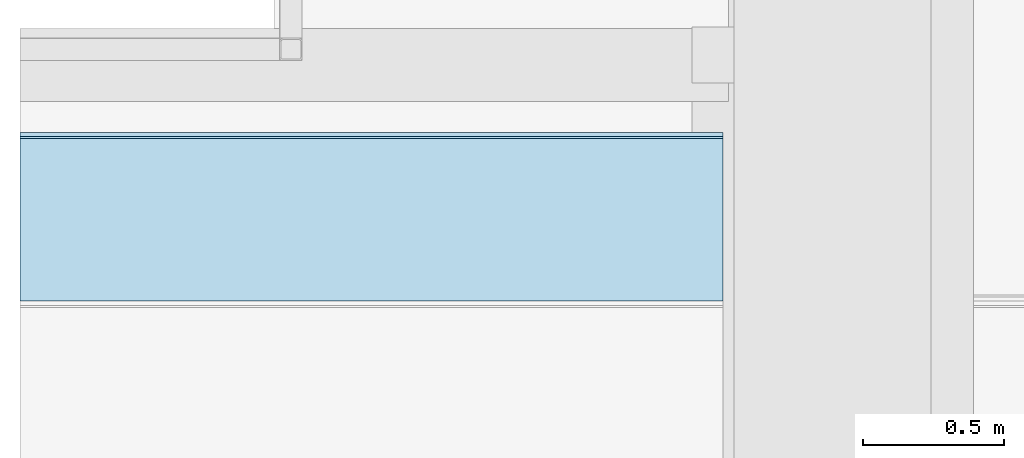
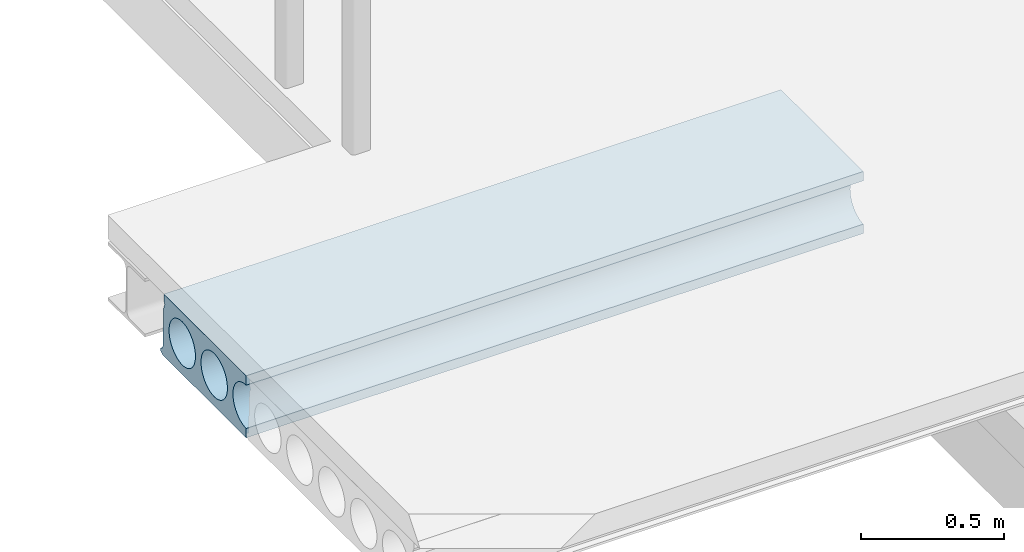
# One storey, part 31 of 34: 1 slab.
"""IFC2X3 building model written with IfcOpenShell, lengths in millimetres."""

from ifc_helpers import new_model, entity, si_unit, converted_unit, derived_unit, direction, frame, origin_with_axes, place, context, subcontext, project, spatial, faceted_brep, type_object, element, save


model = new_model("IFC2X3")

# Units and contexts
model_context = context("Model", 3, precision=0.01, world=frame((0.0, 4.29681676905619e-09, 0.0)), true_north=direction((4.01073788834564e-13, 1.0)))
plan_context = context("Plan", 3, precision=0.01, world=frame((0.0, 4.29681676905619e-09, 0.0)), true_north=direction((4.01073788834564e-13, 1.0)))
body_context = subcontext(model_context, "Body", "Model", "MODEL_VIEW")
ifc_project = project(units=[converted_unit("PLANEANGLEUNIT", "DEGREE", entity("IfcPositiveLengthMeasure", 0.0174532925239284), si_unit("PLANEANGLEUNIT", "RADIAN"), dimensions=[0, 0, 0, 0, 0, 0, 0]), si_unit("AREAUNIT", "SQUARE_METRE"), si_unit("LENGTHUNIT", "METRE", prefix="MILLI"), si_unit("MASSUNIT", "GRAM", prefix="KILO"), si_unit("POWERUNIT", "WATT"), si_unit("PRESSUREUNIT", "PASCAL"), si_unit("FORCEUNIT", "NEWTON", prefix="KILO"), si_unit("ELECTRICVOLTAGEUNIT", "VOLT"), si_unit("ELECTRICCURRENTUNIT", "AMPERE"), si_unit("THERMODYNAMICTEMPERATUREUNIT", "DEGREE_CELSIUS"), si_unit("TIMEUNIT", "SECOND"), si_unit("VOLUMEUNIT", "CUBIC_METRE"), derived_unit("LINEARVELOCITYUNIT", [(si_unit("LENGTHUNIT", "METRE"), 1), (si_unit("TIMEUNIT", "SECOND"), -1)]), derived_unit("VOLUMETRICFLOWRATEUNIT", [(si_unit("VOLUMEUNIT", "CUBIC_METRE"), 1), (si_unit("TIMEUNIT", "SECOND"), -1)]), derived_unit("THERMALTRANSMITTANCEUNIT", [(si_unit("POWERUNIT", "WATT"), 1), (si_unit("THERMODYNAMICTEMPERATUREUNIT", "KELVIN"), -1), (si_unit("AREAUNIT", "SQUARE_METRE"), -1)]), derived_unit("SOUNDPRESSUREUNIT", [(si_unit("PRESSUREUNIT", "PASCAL"), 1)])], contexts=[model_context, plan_context])

# Site, building, storey
site_placement = place(None, frame((0.0, -4.29681676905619e-09, 0.0), z_axis=(0.0, 0.0, 1.0), x_axis=(1.0, 0.0, 0.0)))
site = spatial("IfcSite", under=ifc_project, at=site_placement, Name="Gardermoen", CompositionType="ELEMENT")
building_placement = place(site_placement, frame((0.0, 4.29681676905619e-09, 0.0), z_axis=(0.0, 0.0, 1.0), x_axis=(1.0, 0.0, 0.0)))
building = spatial("IfcBuilding", under=site, at=building_placement, Name="TH", CompositionType="ELEMENT")
storey_placement = place(building_placement, origin_with_axes())
storey = spatial("IfcBuildingStorey", under=building, at=storey_placement, Name="F", CompositionType="ELEMENT", Elevation=0.0)

# Slab
slab_type = type_object("IfcSlabType", Name="HD265", PredefinedType="NOTDEFINED")
slab_placement = place(storey_placement, frame((889389.982554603, 477499.97987603, 209897.5), z_axis=(0.0, 0.0, 1.0), x_axis=(1.0, 0.0, 0.0)))
element("IfcSlab", 1, at=slab_placement, inside=storey, type_object=slab_type, Name="HULLDEKKE", ObjectType="HD265", PredefinedType="FLOOR", context=body_context, shape_type="Brep", body=[
    faceted_brep([(5721.92361396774, 539.238420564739, 15.2249996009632), (5721.92361396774, 537.669524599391, 22.7074075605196), (8220.0, 537.669524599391, 22.7074075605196), (8220.0, 539.238420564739, 15.2249996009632), (5721.92361396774, 535.488094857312, 30.0347009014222), (8220.0, 535.488094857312, 30.0347009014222), (5721.92361396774, 532.709032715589, 37.1568267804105), (8220.0, 532.709032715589, 37.1568267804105), (5721.92361396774, 529.351321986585, 44.0251338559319), (8220.0, 529.351321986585, 44.0251338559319), (5721.92361396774, 525.437899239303, 50.5927046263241), (8220.0, 525.437899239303, 50.5927046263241), (5721.92361396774, 520.995497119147, 56.8146759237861), (8220.0, 520.995497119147, 56.8146759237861), (5721.92361396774, 516.05446173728, 62.6485453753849), (8220.0, 516.05446173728, 62.6485453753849), (5721.92361396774, 510.648545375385, 68.0544617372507), (8220.0, 510.648545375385, 68.0544617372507), (5721.92361396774, 504.814675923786, 72.9954971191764), (8220.0, 504.814675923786, 72.9954971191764), (5721.92361396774, 498.592704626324, 77.437899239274), (8220.0, 498.592704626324, 77.437899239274), (5721.92361396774, 492.025133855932, 81.3513219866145), (8220.0, 492.025133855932, 81.3513219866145), (5721.92361396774, 485.15682678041, 84.7090327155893), (8220.0, 485.15682678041, 84.7090327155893), (5721.92361396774, 478.034700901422, 87.4880948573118), (8220.0, 478.034700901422, 87.4880948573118), (5721.92361396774, 470.707407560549, 89.6695245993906), (8220.0, 470.707407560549, 89.6695245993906), (5721.92361396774, 463.224999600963, 91.2384205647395), (8220.0, 463.224999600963, 91.2384205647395), (5721.92361396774, 455.638589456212, 92.1840656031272), (8220.0, 455.638589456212, 92.1840656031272), (5721.92361396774, 448.0, 92.5), (8220.0, 448.0, 92.5), (5721.92361396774, 440.361410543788, 92.1840656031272), (8220.0, 440.361410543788, 92.1840656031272), (5721.92361396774, 432.775000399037, 91.2384205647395), (8220.0, 432.775000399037, 91.2384205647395), (5721.92361396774, 425.292592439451, 89.6695245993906), (8220.0, 425.292592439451, 89.6695245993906), (5721.92361396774, 417.965299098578, 87.4880948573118), (8220.0, 417.965299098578, 87.4880948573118), (5721.92361396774, 410.84317321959, 84.7090327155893), (8220.0, 410.84317321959, 84.7090327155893), (5721.92361396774, 403.974866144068, 81.3513219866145), (8220.0, 403.974866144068, 81.3513219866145), (5721.92361396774, 397.407295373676, 77.437899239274), (8220.0, 397.407295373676, 77.437899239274), (5721.92361396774, 391.185324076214, 72.9954971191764), (8220.0, 391.185324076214, 72.9954971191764), (5721.92361396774, 385.351454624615, 68.0544617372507), (8220.0, 385.351454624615, 68.0544617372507), (5721.92361396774, 379.94553826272, 62.6485453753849), (8220.0, 379.94553826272, 62.6485453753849), (5721.92361396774, 375.004502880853, 56.8146759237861), (8220.0, 375.004502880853, 56.8146759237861), (5721.92361396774, 370.562100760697, 50.5927046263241), (8220.0, 370.562100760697, 50.5927046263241), (5721.92361396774, 366.648678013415, 44.0251338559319), (8220.0, 366.648678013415, 44.0251338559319), (5721.92361396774, 363.290967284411, 37.1568267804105), (8220.0, 363.290967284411, 37.1568267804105), (5721.92361396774, 360.511905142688, 30.0347009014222), (8220.0, 360.511905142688, 30.0347009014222), (5721.92361396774, 358.330475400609, 22.7074075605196), (8220.0, 358.330475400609, 22.7074075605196), (5721.92361396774, 356.761579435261, 15.2249996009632), (8220.0, 356.761579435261, 15.2249996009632), (5721.92361396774, 355.815934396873, 7.63858945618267), (8220.0, 355.815934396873, 7.63858945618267), (5721.92361396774, 355.5, 1.65308828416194e-20), (8220.0, 355.5, 0.0), (5721.92361396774, 355.815934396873, -7.63858945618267), (8220.0, 355.815934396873, -7.63858945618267), (5721.92361396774, 356.761579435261, -15.2249996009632), (8220.0, 356.761579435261, -15.2249996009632), (5721.92361396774, 358.330475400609, -22.7074075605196), (8220.0, 358.330475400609, -22.7074075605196), (5721.92361396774, 360.511905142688, -30.0347009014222), (8220.0, 360.511905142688, -30.0347009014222), (5721.92361396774, 363.290967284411, -37.1568267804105), (8220.0, 363.290967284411, -37.1568267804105), (5721.92361396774, 366.648678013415, -44.0251338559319), (8220.0, 366.648678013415, -44.0251338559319), (5721.92361396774, 370.562100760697, -50.5927046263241), (8220.0, 370.562100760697, -50.5927046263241), (5721.92361396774, 375.004502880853, -56.8146759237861), (8220.0, 375.004502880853, -56.8146759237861), (5721.92361396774, 379.94553826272, -62.6485453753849), (8220.0, 379.94553826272, -62.6485453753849), (5721.92361396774, 385.351454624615, -68.0544617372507), (8220.0, 385.351454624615, -68.0544617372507), (5721.92361396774, 391.185324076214, -72.9954971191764), (8220.0, 391.185324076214, -72.9954971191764), (5721.92361396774, 397.407295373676, -77.437899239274), (8220.0, 397.407295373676, -77.437899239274), (5721.92361396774, 403.974866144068, -81.3513219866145), (8220.0, 403.974866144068, -81.3513219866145), (5721.92361396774, 410.84317321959, -84.7090327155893), (8220.0, 410.84317321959, -84.7090327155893), (5721.92361396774, 417.965299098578, -87.4880948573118), (8220.0, 417.965299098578, -87.4880948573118), (5721.92361396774, 425.292592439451, -89.6695245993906), (8220.0, 425.292592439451, -89.6695245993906), (5721.92361396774, 432.775000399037, -91.2384205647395), (8220.0, 432.775000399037, -91.2384205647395), (5721.92361396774, 440.361410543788, -92.1840656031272), (8220.0, 440.361410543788, -92.1840656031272), (5721.92361396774, 448.0, -92.5), (8220.0, 448.0, -92.5), (5721.92361396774, 455.638589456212, -92.1840656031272), (8220.0, 455.638589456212, -92.1840656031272), (5721.92361396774, 463.224999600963, -91.2384205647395), (8220.0, 463.224999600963, -91.2384205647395), (5721.92361396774, 470.707407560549, -89.6695245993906), (8220.0, 470.707407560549, -89.6695245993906), (5721.92361396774, 478.034700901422, -87.4880948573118), (8220.0, 478.034700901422, -87.4880948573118), (5721.92361396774, 485.15682678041, -84.7090327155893), (8220.0, 485.15682678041, -84.7090327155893), (5721.92361396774, 492.025133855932, -81.3513219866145), (8220.0, 492.025133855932, -81.3513219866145), (5721.92361396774, 498.592704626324, -77.437899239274), (8220.0, 498.592704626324, -77.437899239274), (5721.92361396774, 504.814675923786, -72.9954971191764), (8220.0, 504.814675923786, -72.9954971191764), (5721.92361396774, 510.648545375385, -68.0544617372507), (8220.0, 510.648545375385, -68.0544617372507), (5721.92361396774, 516.05446173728, -62.6485453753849), (8220.0, 516.05446173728, -62.6485453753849), (5721.92361396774, 520.995497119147, -56.8146759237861), (8220.0, 520.995497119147, -56.8146759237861), (5721.92361396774, 525.437899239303, -50.5927046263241), (8220.0, 525.437899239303, -50.5927046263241), (5721.92361396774, 529.351321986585, -44.0251338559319), (8220.0, 529.351321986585, -44.0251338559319), (5721.92361396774, 532.709032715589, -37.1568267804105), (8220.0, 532.709032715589, -37.1568267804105), (5721.92361396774, 535.488094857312, -30.0347009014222), (8220.0, 535.488094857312, -30.0347009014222), (5721.92361396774, 537.669524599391, -22.7074075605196), (8220.0, 537.669524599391, -22.7074075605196), (5721.92361396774, 539.238420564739, -15.2249996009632), (8220.0, 539.238420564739, -15.2249996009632), (5721.92361396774, 540.184065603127, -7.63858945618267), (8220.0, 540.184065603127, -7.63858945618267), (5721.92361396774, 540.5, 1.65308828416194e-20), (8220.0, 540.5, 0.0), (5721.92361396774, 540.184065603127, 7.63858945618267), (8220.0, 540.184065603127, 7.63858945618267), (5721.92361396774, 315.238420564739, 15.2249996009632), (5721.92361396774, 313.669524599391, 22.7074075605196), (8220.0, 313.669524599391, 22.7074075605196), (8220.0, 315.238420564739, 15.2249996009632), (5721.92361396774, 311.488094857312, 30.0347009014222), (8220.0, 311.488094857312, 30.0347009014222), (5721.92361396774, 308.709032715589, 37.1568267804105), (8220.0, 308.709032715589, 37.1568267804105), (5721.92361396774, 305.351321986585, 44.0251338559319), (8220.0, 305.351321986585, 44.0251338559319), (5721.92361396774, 301.437899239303, 50.5927046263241), (8220.0, 301.437899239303, 50.5927046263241), (5721.92361396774, 296.995497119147, 56.8146759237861), (8220.0, 296.995497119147, 56.8146759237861), (5721.92361396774, 292.05446173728, 62.6485453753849), (8220.0, 292.05446173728, 62.6485453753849), (5721.92361396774, 286.648545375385, 68.0544617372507), (8220.0, 286.648545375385, 68.0544617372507), (5721.92361396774, 280.814675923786, 72.9954971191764), (8220.0, 280.814675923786, 72.9954971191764), (5721.92361396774, 274.592704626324, 77.437899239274), (8220.0, 274.592704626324, 77.437899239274), (5721.92361396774, 268.025133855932, 81.3513219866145), (8220.0, 268.025133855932, 81.3513219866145), (5721.92361396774, 261.15682678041, 84.7090327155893), (8220.0, 261.15682678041, 84.7090327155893), (5721.92361396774, 254.034700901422, 87.4880948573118), (8220.0, 254.034700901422, 87.4880948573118), (5721.92361396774, 246.707407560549, 89.6695245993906), (8220.0, 246.707407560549, 89.6695245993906), (5721.92361396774, 239.224999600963, 91.2384205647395), (8220.0, 239.224999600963, 91.2384205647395), (5721.92361396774, 231.638589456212, 92.1840656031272), (8220.0, 231.638589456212, 92.1840656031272), (5721.92361396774, 224.0, 92.5), (8220.0, 224.0, 92.5), (5721.92361396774, 216.361410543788, 92.1840656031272), (8220.0, 216.361410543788, 92.1840656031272), (5721.92361396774, 208.775000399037, 91.2384205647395), (8220.0, 208.775000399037, 91.2384205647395), (5721.92361396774, 201.292592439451, 89.6695245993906), (8220.0, 201.292592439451, 89.6695245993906), (5721.92361396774, 193.965299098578, 87.4880948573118), (8220.0, 193.965299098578, 87.4880948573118), (5721.92361396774, 186.84317321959, 84.7090327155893), (8220.0, 186.84317321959, 84.7090327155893), (5721.92361396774, 179.974866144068, 81.3513219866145), (8220.0, 179.974866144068, 81.3513219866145), (5721.92361396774, 173.407295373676, 77.437899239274), (8220.0, 173.407295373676, 77.437899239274), (5721.92361396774, 167.185324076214, 72.9954971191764), (8220.0, 167.185324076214, 72.9954971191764), (5721.92361396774, 161.351454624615, 68.0544617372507), (8220.0, 161.351454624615, 68.0544617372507), (5721.92361396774, 155.94553826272, 62.6485453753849), (8220.0, 155.94553826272, 62.6485453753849), (5721.92361396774, 151.004502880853, 56.8146759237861), (8220.0, 151.004502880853, 56.8146759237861), (5721.92361396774, 146.562100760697, 50.5927046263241), (8220.0, 146.562100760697, 50.5927046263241), (5721.92361396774, 142.648678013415, 44.0251338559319), (8220.0, 142.648678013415, 44.0251338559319), (5721.92361396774, 139.290967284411, 37.1568267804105), (8220.0, 139.290967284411, 37.1568267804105), (5721.92361396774, 136.511905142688, 30.0347009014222), (8220.0, 136.511905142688, 30.0347009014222), (5721.92361396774, 134.330475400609, 22.7074075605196), (8220.0, 134.330475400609, 22.7074075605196), (5721.92361396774, 132.761579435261, 15.2249996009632), (8220.0, 132.761579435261, 15.2249996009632), (5721.92361396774, 131.815934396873, 7.63858945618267), (8220.0, 131.815934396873, 7.63858945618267), (5721.92361396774, 131.5, 1.65308828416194e-20), (8220.0, 131.5, 0.0), (5721.92361396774, 131.815934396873, -7.63858945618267), (8220.0, 131.815934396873, -7.63858945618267), (5721.92361396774, 132.761579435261, -15.2249996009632), (8220.0, 132.761579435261, -15.2249996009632), (5721.92361396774, 134.330475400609, -22.7074075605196), (8220.0, 134.330475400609, -22.7074075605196), (5721.92361396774, 136.511905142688, -30.0347009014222), (8220.0, 136.511905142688, -30.0347009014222), (5721.92361396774, 139.290967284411, -37.1568267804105), (8220.0, 139.290967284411, -37.1568267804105), (5721.92361396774, 142.648678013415, -44.0251338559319), (8220.0, 142.648678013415, -44.0251338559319), (5721.92361396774, 146.562100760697, -50.5927046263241), (8220.0, 146.562100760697, -50.5927046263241), (5721.92361396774, 151.004502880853, -56.8146759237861), (8220.0, 151.004502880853, -56.8146759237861), (5721.92361396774, 155.94553826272, -62.6485453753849), (8220.0, 155.94553826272, -62.6485453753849), (5721.92361396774, 161.351454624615, -68.0544617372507), (8220.0, 161.351454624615, -68.0544617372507), (5721.92361396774, 167.185324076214, -72.9954971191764), (8220.0, 167.185324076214, -72.9954971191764), (5721.92361396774, 173.407295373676, -77.437899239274), (8220.0, 173.407295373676, -77.437899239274), (5721.92361396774, 179.974866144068, -81.3513219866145), (8220.0, 179.974866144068, -81.3513219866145), (5721.92361396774, 186.84317321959, -84.7090327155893), (8220.0, 186.84317321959, -84.7090327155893), (5721.92361396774, 193.965299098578, -87.4880948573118), (8220.0, 193.965299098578, -87.4880948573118), (5721.92361396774, 201.292592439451, -89.6695245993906), (8220.0, 201.292592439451, -89.6695245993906), (5721.92361396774, 208.775000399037, -91.2384205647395), (8220.0, 208.775000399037, -91.2384205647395), (5721.92361396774, 216.361410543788, -92.1840656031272), (8220.0, 216.361410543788, -92.1840656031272), (5721.92361396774, 224.0, -92.5), (8220.0, 224.0, -92.5), (5721.92361396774, 231.638589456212, -92.1840656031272), (8220.0, 231.638589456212, -92.1840656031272), (5721.92361396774, 239.224999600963, -91.2384205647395), (8220.0, 239.224999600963, -91.2384205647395), (5721.92361396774, 246.707407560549, -89.6695245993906), (8220.0, 246.707407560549, -89.6695245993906), (5721.92361396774, 254.034700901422, -87.4880948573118), (8220.0, 254.034700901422, -87.4880948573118), (5721.92361396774, 261.15682678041, -84.7090327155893), (8220.0, 261.15682678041, -84.7090327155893), (5721.92361396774, 268.025133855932, -81.3513219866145), (8220.0, 268.025133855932, -81.3513219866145), (5721.92361396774, 274.592704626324, -77.437899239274), (8220.0, 274.592704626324, -77.437899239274), (5721.92361396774, 280.814675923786, -72.9954971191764), (8220.0, 280.814675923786, -72.9954971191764), (5721.92361396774, 286.648545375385, -68.0544617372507), (8220.0, 286.648545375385, -68.0544617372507), (5721.92361396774, 292.05446173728, -62.6485453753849), (8220.0, 292.05446173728, -62.6485453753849), (5721.92361396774, 296.995497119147, -56.8146759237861), (8220.0, 296.995497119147, -56.8146759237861), (5721.92361396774, 301.437899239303, -50.5927046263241), (8220.0, 301.437899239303, -50.5927046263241), (5721.92361396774, 305.351321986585, -44.0251338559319), (8220.0, 305.351321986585, -44.0251338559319), (5721.92361396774, 308.709032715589, -37.1568267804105), (8220.0, 308.709032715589, -37.1568267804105), (5721.92361396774, 311.488094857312, -30.0347009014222), (8220.0, 311.488094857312, -30.0347009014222), (5721.92361396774, 313.669524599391, -22.7074075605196), (8220.0, 313.669524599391, -22.7074075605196), (5721.92361396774, 315.238420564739, -15.2249996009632), (8220.0, 315.238420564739, -15.2249996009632), (5721.92361396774, 316.184065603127, -7.63858945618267), (8220.0, 316.184065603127, -7.63858945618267), (5721.92361396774, 316.5, 1.65308828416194e-20), (8220.0, 316.5, 0.0), (5721.92361396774, 316.184065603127, 7.63858945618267), (8220.0, 316.184065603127, 7.63858945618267), (5721.92361396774, 91.2384205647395, 15.2249996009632), (5721.92361396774, 89.6695245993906, 22.7074075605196), (8220.0, 89.6695245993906, 22.7074075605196), (8220.0, 91.2384205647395, 15.2249996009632), (5721.92361396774, 87.4880948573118, 30.0347009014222), (8220.0, 87.4880948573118, 30.0347009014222), (5721.92361396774, 84.7090327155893, 37.1568267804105), (8220.0, 84.7090327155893, 37.1568267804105), (5721.92361396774, 81.3513219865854, 44.0251338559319), (8220.0, 81.3513219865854, 44.0251338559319), (5721.92361396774, 77.4378992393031, 50.5927046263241), (8220.0, 77.4378992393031, 50.5927046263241), (5721.92361396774, 72.9954971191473, 56.8146759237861), (8220.0, 72.9954971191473, 56.8146759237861), (5721.92361396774, 68.0544617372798, 62.6485453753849), (8220.0, 68.0544617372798, 62.6485453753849), (5721.92361396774, 62.6485453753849, 68.0544617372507), (8220.0, 62.6485453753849, 68.0544617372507), (5721.92361396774, 56.8146759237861, 72.9954971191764), (8220.0, 56.8146759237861, 72.9954971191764), (5721.92361396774, 50.5927046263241, 77.437899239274), (8220.0, 50.5927046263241, 77.437899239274), (5721.92361396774, 44.0251338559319, 81.3513219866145), (8220.0, 44.0251338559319, 81.3513219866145), (5721.92361396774, 37.1568267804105, 84.7090327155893), (8220.0, 37.1568267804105, 84.7090327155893), (5721.92361396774, 30.0347009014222, 87.4880948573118), (8220.0, 30.0347009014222, 87.4880948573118), (5721.92361396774, 22.7074075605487, 89.6695245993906), (8220.0, 22.7074075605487, 89.6695245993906), (5721.92361396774, 15.2249996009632, 91.2384205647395), (8220.0, 15.2249996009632, 91.2384205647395), (5721.92361396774, 7.63858945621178, 92.1840656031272), (8220.0, 7.63858945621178, 92.1840656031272), (5721.92361396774, 0.00857001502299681, 92.4996455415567), (8220.0, 0.00857001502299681, 92.4996455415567), (5721.92361396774, 0.00857001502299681, -92.4996455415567), (5721.92361396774, 7.63858945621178, -92.1840656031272), (8220.0, 7.63858945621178, -92.1840656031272), (8220.0, 0.00857001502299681, -92.4996455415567), (5721.92361396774, 15.2249996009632, -91.2384205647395), (8220.0, 15.2249996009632, -91.2384205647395), (5721.92361396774, 22.7074075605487, -89.6695245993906), (8220.0, 22.7074075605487, -89.6695245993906), (5721.92361396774, 30.0347009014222, -87.4880948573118), (8220.0, 30.0347009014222, -87.4880948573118), (5721.92361396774, 37.1568267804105, -84.7090327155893), (8220.0, 37.1568267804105, -84.7090327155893), (5721.92361396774, 44.0251338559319, -81.3513219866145), (8220.0, 44.0251338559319, -81.3513219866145), (5721.92361396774, 50.5927046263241, -77.437899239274), (8220.0, 50.5927046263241, -77.437899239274), (5721.92361396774, 56.8146759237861, -72.9954971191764), (8220.0, 56.8146759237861, -72.9954971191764), (5721.92361396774, 62.6485453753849, -68.0544617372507), (8220.0, 62.6485453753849, -68.0544617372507), (5721.92361396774, 68.0544617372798, -62.6485453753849), (8220.0, 68.0544617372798, -62.6485453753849), (5721.92361396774, 72.9954971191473, -56.8146759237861), (8220.0, 72.9954971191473, -56.8146759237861), (5721.92361396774, 77.4378992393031, -50.5927046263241), (8220.0, 77.4378992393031, -50.5927046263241), (5721.92361396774, 81.3513219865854, -44.0251338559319), (8220.0, 81.3513219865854, -44.0251338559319), (5721.92361396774, 84.7090327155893, -37.1568267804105), (8220.0, 84.7090327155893, -37.1568267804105), (5721.92361396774, 87.4880948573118, -30.0347009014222), (8220.0, 87.4880948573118, -30.0347009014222), (5721.92361396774, 89.6695245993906, -22.7074075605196), (8220.0, 89.6695245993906, -22.7074075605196), (5721.92361396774, 91.2384205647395, -15.2249996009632), (8220.0, 91.2384205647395, -15.2249996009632), (5721.92361396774, 92.1840656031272, -7.63858945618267), (8220.0, 92.1840656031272, -7.63858945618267), (5721.92361396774, 92.5, 1.65308828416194e-20), (8220.0, 92.5, 0.0), (5721.92361396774, 92.1840656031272, 7.63858945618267), (8220.0, 92.1840656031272, 7.63858945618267), (5721.92361396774, 583.380004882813, -132.5), (5721.92361396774, 0.00857001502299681, -132.5), (8220.0, 0.00857001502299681, -132.5), (8220.0, 583.380004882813, -132.5), (5721.92361396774, 600.0, -122.5), (8220.0, 600.0, -122.5), (5721.92361396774, 0.00857001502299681, 132.5), (5721.92361396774, 577.5, 132.5), (8220.0, 577.5, 132.5), (8220.0, 0.00857001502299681, 132.5), (5721.92361396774, 577.5, 107.5), (8220.0, 577.5, 107.5), (5721.92361396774, 570.0, 92.5), (8220.0, 570.0, 92.5), (5721.92361396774, 577.5, 77.5), (8220.0, 577.5, 77.5), (5721.92361396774, 585.0, -102.5), (8220.0, 585.0, -102.5), (5721.92361396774, 600.0, -112.5), (8220.0, 600.0, -112.5)], [[[0, 1, 2, 3]], [[1, 4, 5, 2]], [[4, 6, 7, 5]], [[6, 8, 9, 7]], [[8, 10, 11, 9]], [[10, 12, 13, 11]], [[12, 14, 15, 13]], [[14, 16, 17, 15]], [[16, 18, 19, 17]], [[18, 20, 21, 19]], [[20, 22, 23, 21]], [[22, 24, 25, 23]], [[24, 26, 27, 25]], [[26, 28, 29, 27]], [[28, 30, 31, 29]], [[30, 32, 33, 31]], [[32, 34, 35, 33]], [[34, 36, 37, 35]], [[36, 38, 39, 37]], [[38, 40, 41, 39]], [[40, 42, 43, 41]], [[42, 44, 45, 43]], [[44, 46, 47, 45]], [[46, 48, 49, 47]], [[48, 50, 51, 49]], [[50, 52, 53, 51]], [[52, 54, 55, 53]], [[54, 56, 57, 55]], [[56, 58, 59, 57]], [[58, 60, 61, 59]], [[60, 62, 63, 61]], [[62, 64, 65, 63]], [[64, 66, 67, 65]], [[66, 68, 69, 67]], [[68, 70, 71, 69]], [[70, 72, 73, 71]], [[72, 74, 75, 73]], [[74, 76, 77, 75]], [[76, 78, 79, 77]], [[78, 80, 81, 79]], [[80, 82, 83, 81]], [[82, 84, 85, 83]], [[84, 86, 87, 85]], [[86, 88, 89, 87]], [[88, 90, 91, 89]], [[90, 92, 93, 91]], [[92, 94, 95, 93]], [[94, 96, 97, 95]], [[96, 98, 99, 97]], [[98, 100, 101, 99]], [[100, 102, 103, 101]], [[102, 104, 105, 103]], [[104, 106, 107, 105]], [[106, 108, 109, 107]], [[108, 110, 111, 109]], [[110, 112, 113, 111]], [[112, 114, 115, 113]], [[114, 116, 117, 115]], [[116, 118, 119, 117]], [[118, 120, 121, 119]], [[120, 122, 123, 121]], [[122, 124, 125, 123]], [[124, 126, 127, 125]], [[126, 128, 129, 127]], [[128, 130, 131, 129]], [[130, 132, 133, 131]], [[132, 134, 135, 133]], [[134, 136, 137, 135]], [[136, 138, 139, 137]], [[138, 140, 141, 139]], [[140, 142, 143, 141]], [[142, 144, 145, 143]], [[144, 146, 147, 145]], [[146, 148, 149, 147]], [[148, 150, 151, 149]], [[150, 0, 3, 151]], [[152, 153, 154, 155]], [[153, 156, 157, 154]], [[156, 158, 159, 157]], [[158, 160, 161, 159]], [[160, 162, 163, 161]], [[162, 164, 165, 163]], [[164, 166, 167, 165]], [[166, 168, 169, 167]], [[168, 170, 171, 169]], [[170, 172, 173, 171]], [[172, 174, 175, 173]], [[174, 176, 177, 175]], [[176, 178, 179, 177]], [[178, 180, 181, 179]], [[180, 182, 183, 181]], [[182, 184, 185, 183]], [[184, 186, 187, 185]], [[186, 188, 189, 187]], [[188, 190, 191, 189]], [[190, 192, 193, 191]], [[192, 194, 195, 193]], [[194, 196, 197, 195]], [[196, 198, 199, 197]], [[198, 200, 201, 199]], [[200, 202, 203, 201]], [[202, 204, 205, 203]], [[204, 206, 207, 205]], [[206, 208, 209, 207]], [[208, 210, 211, 209]], [[210, 212, 213, 211]], [[212, 214, 215, 213]], [[214, 216, 217, 215]], [[216, 218, 219, 217]], [[218, 220, 221, 219]], [[220, 222, 223, 221]], [[222, 224, 225, 223]], [[224, 226, 227, 225]], [[226, 228, 229, 227]], [[228, 230, 231, 229]], [[230, 232, 233, 231]], [[232, 234, 235, 233]], [[234, 236, 237, 235]], [[236, 238, 239, 237]], [[238, 240, 241, 239]], [[240, 242, 243, 241]], [[242, 244, 245, 243]], [[244, 246, 247, 245]], [[246, 248, 249, 247]], [[248, 250, 251, 249]], [[250, 252, 253, 251]], [[252, 254, 255, 253]], [[254, 256, 257, 255]], [[256, 258, 259, 257]], [[258, 260, 261, 259]], [[260, 262, 263, 261]], [[262, 264, 265, 263]], [[264, 266, 267, 265]], [[266, 268, 269, 267]], [[268, 270, 271, 269]], [[270, 272, 273, 271]], [[272, 274, 275, 273]], [[274, 276, 277, 275]], [[276, 278, 279, 277]], [[278, 280, 281, 279]], [[280, 282, 283, 281]], [[282, 284, 285, 283]], [[284, 286, 287, 285]], [[286, 288, 289, 287]], [[288, 290, 291, 289]], [[290, 292, 293, 291]], [[292, 294, 295, 293]], [[294, 296, 297, 295]], [[296, 298, 299, 297]], [[298, 300, 301, 299]], [[300, 302, 303, 301]], [[302, 152, 155, 303]], [[304, 305, 306, 307]], [[305, 308, 309, 306]], [[308, 310, 311, 309]], [[310, 312, 313, 311]], [[312, 314, 315, 313]], [[314, 316, 317, 315]], [[316, 318, 319, 317]], [[318, 320, 321, 319]], [[320, 322, 323, 321]], [[322, 324, 325, 323]], [[324, 326, 327, 325]], [[326, 328, 329, 327]], [[328, 330, 331, 329]], [[330, 332, 333, 331]], [[332, 334, 335, 333]], [[334, 336, 337, 335]], [[336, 338, 339, 337]], [[340, 341, 342, 343]], [[341, 344, 345, 342]], [[344, 346, 347, 345]], [[346, 348, 349, 347]], [[348, 350, 351, 349]], [[350, 352, 353, 351]], [[352, 354, 355, 353]], [[354, 356, 357, 355]], [[356, 358, 359, 357]], [[358, 360, 361, 359]], [[360, 362, 363, 361]], [[362, 364, 365, 363]], [[364, 366, 367, 365]], [[366, 368, 369, 367]], [[368, 370, 371, 369]], [[370, 372, 373, 371]], [[372, 374, 375, 373]], [[374, 376, 377, 375]], [[376, 378, 379, 377]], [[378, 380, 381, 379]], [[380, 304, 307, 381]], [[382, 383, 384, 385]], [[386, 382, 385, 387]], [[388, 389, 390, 391]], [[389, 392, 393, 390]], [[392, 394, 395, 393]], [[394, 396, 397, 395]], [[396, 398, 399, 397]], [[398, 400, 401, 399]], [[400, 386, 387, 401]], [[391, 390, 393, 395, 397, 399, 401, 387, 385, 384, 343, 342, 345, 347, 349, 351, 353, 355, 357, 359, 361, 363, 365, 367, 369, 371, 373, 375, 377, 379, 381, 307, 306, 309, 311, 313, 315, 317, 319, 321, 323, 325, 327, 329, 331, 333, 335, 337, 339], [3, 2, 5, 7, 9, 11, 13, 15, 17, 19, 21, 23, 25, 27, 29, 31, 33, 35, 37, 39, 41, 43, 45, 47, 49, 51, 53, 55, 57, 59, 61, 63, 65, 67, 69, 71, 73, 75, 77, 79, 81, 83, 85, 87, 89, 91, 93, 95, 97, 99, 101, 103, 105, 107, 109, 111, 113, 115, 117, 119, 121, 123, 125, 127, 129, 131, 133, 135, 137, 139, 141, 143, 145, 147, 149, 151], [155, 154, 157, 159, 161, 163, 165, 167, 169, 171, 173, 175, 177, 179, 181, 183, 185, 187, 189, 191, 193, 195, 197, 199, 201, 203, 205, 207, 209, 211, 213, 215, 217, 219, 221, 223, 225, 227, 229, 231, 233, 235, 237, 239, 241, 243, 245, 247, 249, 251, 253, 255, 257, 259, 261, 263, 265, 267, 269, 271, 273, 275, 277, 279, 281, 283, 285, 287, 289, 291, 293, 295, 297, 299, 301, 303]], [[338, 388, 391, 339]], [[383, 340, 343, 384]], [[380, 378, 376, 374, 372, 370, 368, 366, 364, 362, 360, 358, 356, 354, 352, 350, 348, 346, 344, 341, 340, 383, 382, 386, 400, 398, 396, 394, 392, 389, 388, 338, 336, 334, 332, 330, 328, 326, 324, 322, 320, 318, 316, 314, 312, 310, 308, 305, 304], [150, 148, 146, 144, 142, 140, 138, 136, 134, 132, 130, 128, 126, 124, 122, 120, 118, 116, 114, 112, 110, 108, 106, 104, 102, 100, 98, 96, 94, 92, 90, 88, 86, 84, 82, 80, 78, 76, 74, 72, 70, 68, 66, 64, 62, 60, 58, 56, 54, 52, 50, 48, 46, 44, 42, 40, 38, 36, 34, 32, 30, 28, 26, 24, 22, 20, 18, 16, 14, 12, 10, 8, 6, 4, 1, 0], [302, 300, 298, 296, 294, 292, 290, 288, 286, 284, 282, 280, 278, 276, 274, 272, 270, 268, 266, 264, 262, 260, 258, 256, 254, 252, 250, 248, 246, 244, 242, 240, 238, 236, 234, 232, 230, 228, 226, 224, 222, 220, 218, 216, 214, 212, 210, 208, 206, 204, 202, 200, 198, 196, 194, 192, 190, 188, 186, 184, 182, 180, 178, 176, 174, 172, 170, 168, 166, 164, 162, 160, 158, 156, 153, 152]]], orient=[[False], [False], [False], [False], [False], [False], [False], [False], [False], [False], [False], [False], [False], [False], [False], [False], [False], [False], [False], [False], [False], [False], [False], [False], [False], [False], [False], [False], [False], [False], [False], [False], [False], [False], [False], [False], [False], [False], [False], [False], [False], [False], [False], [False], [False], [False], [False], [False], [False], [False], [False], [False], [False], [False], [False], [False], [False], [False], [False], [False], [False], [False], [False], [False], [False], [False], [False], [False], [False], [False], [False], [False], [False], [False], [False], [False], [False], [False], [False], [False], [False], [False], [False], [False], [False], [False], [False], [False], [False], [False], [False], [False], [False], [False], [False], [False], [False], [False], [False], [False], [False], [False], [False], [False], [False], [False], [False], [False], [False], [False], [False], [False], [False], [False], [False], [False], [False], [False], [False], [False], [False], [False], [False], [False], [False], [False], [False], [False], [False], [False], [False], [False], [False], [False], [False], [False], [False], [False], [False], [False], [False], [False], [False], [False], [False], [False], [False], [False], [False], [False], [False], [False], [False], [False], [False], [False], [False], [False], [False], [False], [False], [False], [False], [False], [False], [False], [False], [False], [False], [False], [False], [False], [False], [False], [False], [False], [False], [False], [False], [False], [False], [False], [False], [False], [False], [False], [False], [False], [False], [False], [False], [False], [False], [False], [False], [False], [False], [False], [False], [False, False, False], [False], [False], [False, False, False]]),
])

save(model, "model.ifc")
